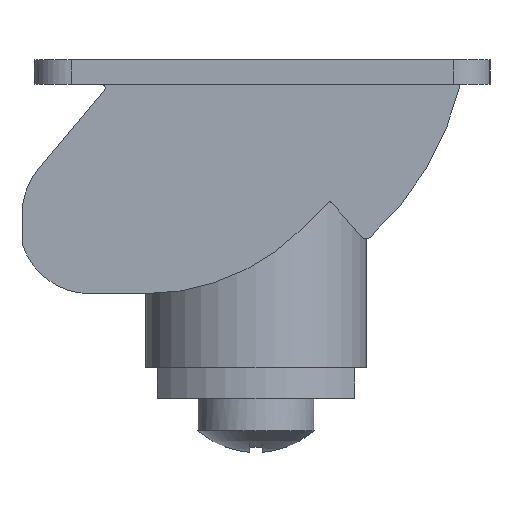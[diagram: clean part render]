
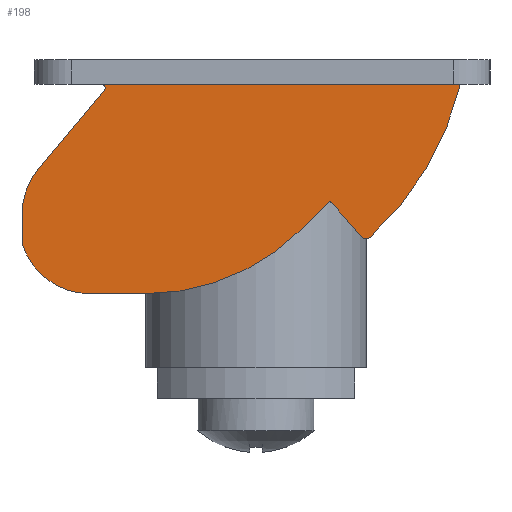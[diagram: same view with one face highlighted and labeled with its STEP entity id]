
A CAD part, left-side view. The second image highlights one B-rep face of the part: STEP entity #198.
In plain terms, the highlighted planar face has unit normal (-1, 0, 0).
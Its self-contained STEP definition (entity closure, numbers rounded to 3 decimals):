
#198 = ADVANCED_FACE( '', ( #326 ), #327, .F. );
#326 = FACE_OUTER_BOUND( '', #525, .T. );
#327 = PLANE( '', #526 );
#525 = EDGE_LOOP( '', ( #903, #904, #905, #906, #907, #908, #909, #910, #911, #912, #913, #914, #915 ) );
#526 = AXIS2_PLACEMENT_3D( '', #916, #917, #918 );
#903 = ORIENTED_EDGE( '', *, *, #1502, .F. );
#904 = ORIENTED_EDGE( '', *, *, #1503, .T. );
#905 = ORIENTED_EDGE( '', *, *, #1504, .T. );
#906 = ORIENTED_EDGE( '', *, *, #1505, .F. );
#907 = ORIENTED_EDGE( '', *, *, #1506, .F. );
#908 = ORIENTED_EDGE( '', *, *, #1507, .F. );
#909 = ORIENTED_EDGE( '', *, *, #1508, .F. );
#910 = ORIENTED_EDGE( '', *, *, #1509, .F. );
#911 = ORIENTED_EDGE( '', *, *, #1510, .F. );
#912 = ORIENTED_EDGE( '', *, *, #1511, .F. );
#913 = ORIENTED_EDGE( '', *, *, #1512, .T. );
#914 = ORIENTED_EDGE( '', *, *, #1513, .F. );
#915 = ORIENTED_EDGE( '', *, *, #1514, .F. );
#916 = CARTESIAN_POINT( '', ( -99., 7.058, 5.589 ) );
#917 = DIRECTION( '', ( 1., 0., 0. ) );
#918 = DIRECTION( '', ( 0., 0., -1. ) );
#1502 = EDGE_CURVE( '', #1803, #1804, #1805, .T. );
#1503 = EDGE_CURVE( '', #1803, #1806, #1807, .T. );
#1504 = EDGE_CURVE( '', #1806, #1808, #1809, .T. );
#1505 = EDGE_CURVE( '', #1810, #1808, #1811, .T. );
#1506 = EDGE_CURVE( '', #1812, #1810, #1813, .T. );
#1507 = EDGE_CURVE( '', #1814, #1812, #1815, .T. );
#1508 = EDGE_CURVE( '', #1816, #1814, #1817, .T. );
#1509 = EDGE_CURVE( '', #1818, #1816, #1819, .T. );
#1510 = EDGE_CURVE( '', #1820, #1818, #1821, .T. );
#1511 = EDGE_CURVE( '', #1822, #1820, #1823, .T. );
#1512 = EDGE_CURVE( '', #1822, #1824, #1825, .T. );
#1513 = EDGE_CURVE( '', #1826, #1824, #1827, .T. );
#1514 = EDGE_CURVE( '', #1804, #1826, #1828, .T. );
#1803 = VERTEX_POINT( '', #2253 );
#1804 = VERTEX_POINT( '', #2254 );
#1805 = CIRCLE( '', #2255, 24.298 );
#1806 = VERTEX_POINT( '', #2256 );
#1807 = LINE( '', #2257, #2258 );
#1808 = VERTEX_POINT( '', #2259 );
#1809 = CIRCLE( '', #2260, 0.3 );
#1810 = VERTEX_POINT( '', #2261 );
#1811 = LINE( '', #2262, #2263 );
#1812 = VERTEX_POINT( '', #2264 );
#1813 = CIRCLE( '', #2265, 5.8 );
#1814 = VERTEX_POINT( '', #2266 );
#1815 = LINE( '', #2267, #2268 );
#1816 = VERTEX_POINT( '', #2269 );
#1817 = CIRCLE( '', #2270, 5.8 );
#1818 = VERTEX_POINT( '', #2271 );
#1819 = LINE( '', #2272, #2273 );
#1820 = VERTEX_POINT( '', #2274 );
#1821 = CIRCLE( '', #2275, 18. );
#1822 = VERTEX_POINT( '', #2276 );
#1823 = LINE( '', #2277, #2278 );
#1824 = VERTEX_POINT( '', #2279 );
#1825 = CIRCLE( '', #2280, 0.2 );
#1826 = VERTEX_POINT( '', #2281 );
#1827 = LINE( '', #2282, #2283 );
#1828 = CIRCLE( '', #2284, 0.5 );
#2253 = CARTESIAN_POINT( '', ( -99., -16.589, 0. ) );
#2254 = CARTESIAN_POINT( '', ( -99., -9.265, -12.411 ) );
#2255 = AXIS2_PLACEMENT_3D( '', #2731, #2732, #2733 );
#2256 = CARTESIAN_POINT( '', ( -99., 12.552, 0. ) );
#2257 = CARTESIAN_POINT( '', ( -99., 15., 0. ) );
#2258 = VECTOR( '', #2734, 1000. );
#2259 = CARTESIAN_POINT( '', ( -99., 12.322, -0.493 ) );
#2260 = AXIS2_PLACEMENT_3D( '', #2735, #2736, #2737 );
#2261 = CARTESIAN_POINT( '', ( -99., 17.643, -6.834 ) );
#2262 = CARTESIAN_POINT( '', ( -99., 17.643, -6.834 ) );
#2263 = VECTOR( '', #2738, 1000. );
#2264 = CARTESIAN_POINT( '', ( -99., 19., -10.562 ) );
#2265 = AXIS2_PLACEMENT_3D( '', #2739, #2740, #2741 );
#2266 = CARTESIAN_POINT( '', ( -99., 19., -12.917 ) );
#2267 = CARTESIAN_POINT( '', ( -99., 19., -12.917 ) );
#2268 = VECTOR( '', #2742, 1000. );
#2269 = CARTESIAN_POINT( '', ( -99., 13.46, -17. ) );
#2270 = AXIS2_PLACEMENT_3D( '', #2743, #2744, #2745 );
#2271 = CARTESIAN_POINT( '', ( -99., 8.987, -17. ) );
#2272 = CARTESIAN_POINT( '', ( -99., 8.987, -17. ) );
#2273 = VECTOR( '', #2746, 1000. );
#2274 = CARTESIAN_POINT( '', ( -99., -3.741, -11.728 ) );
#2275 = AXIS2_PLACEMENT_3D( '', #2747, #2748, #2749 );
#2276 = CARTESIAN_POINT( '', ( -99., -5.865, -9.604 ) );
#2277 = CARTESIAN_POINT( '', ( -99., -5.865, -9.604 ) );
#2278 = VECTOR( '', #2750, 1000. );
#2279 = CARTESIAN_POINT( '', ( -99., -6.157, -9.614 ) );
#2280 = AXIS2_PLACEMENT_3D( '', #2751, #2752, #2753 );
#2281 = CARTESIAN_POINT( '', ( -99., -8.551, -12.368 ) );
#2282 = CARTESIAN_POINT( '', ( -99., -8.551, -12.368 ) );
#2283 = VECTOR( '', #2754, 1000. );
#2284 = AXIS2_PLACEMENT_3D( '', #2755, #2756, #2757 );
#2731 = CARTESIAN_POINT( '', ( -99., 7.058, 5.589 ) );
#2732 = DIRECTION( '', ( 1., 0., 0. ) );
#2733 = DIRECTION( '', ( 0., 0., -1. ) );
#2734 = DIRECTION( '', ( 0., 1., 0. ) );
#2735 = CARTESIAN_POINT( '', ( -99., 12.552, -0.3 ) );
#2736 = DIRECTION( '', ( 1., 0., 0. ) );
#2737 = DIRECTION( '', ( 0., 0., -1. ) );
#2738 = DIRECTION( '', ( 0., -0.643, 0.766 ) );
#2739 = CARTESIAN_POINT( '', ( -99., 13.2, -10.562 ) );
#2740 = DIRECTION( '', ( 1., 0., 0. ) );
#2741 = DIRECTION( '', ( 0., 0., -1. ) );
#2742 = DIRECTION( '', ( 0., 0., 1. ) );
#2743 = CARTESIAN_POINT( '', ( -99., 13.46, -11.2 ) );
#2744 = DIRECTION( '', ( 1., 0., 0. ) );
#2745 = DIRECTION( '', ( 0., 0., -1. ) );
#2746 = DIRECTION( '', ( 0., 1., 0. ) );
#2747 = CARTESIAN_POINT( '', ( -99., 8.987, 1. ) );
#2748 = DIRECTION( '', ( 1., 0., 0. ) );
#2749 = DIRECTION( '', ( 0., 0., -1. ) );
#2750 = DIRECTION( '', ( 0., 0.707, -0.707 ) );
#2751 = CARTESIAN_POINT( '', ( -99., -6.006, -9.745 ) );
#2752 = DIRECTION( '', ( 1., 0., 0. ) );
#2753 = DIRECTION( '', ( 0., 0., -1. ) );
#2754 = DIRECTION( '', ( 0., 0.656, 0.755 ) );
#2755 = CARTESIAN_POINT( '', ( -99., -8.929, -12.04 ) );
#2756 = DIRECTION( '', ( 1., 0., 0. ) );
#2757 = DIRECTION( '', ( 0., 0., -1. ) );
